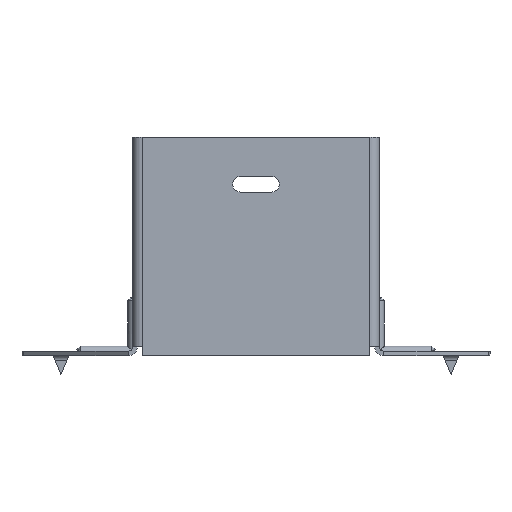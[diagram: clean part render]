
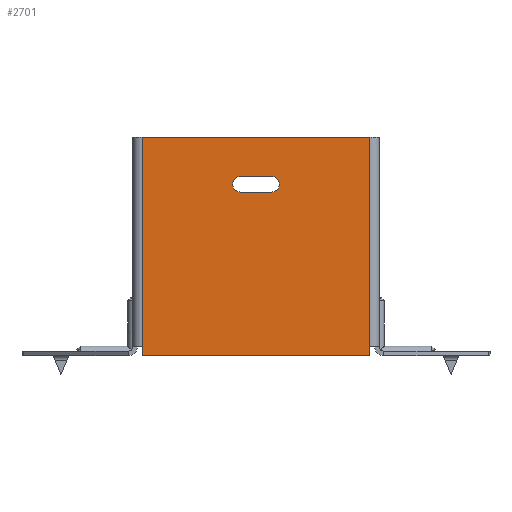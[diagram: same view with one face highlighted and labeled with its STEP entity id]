
A CAD part, front view. The second image highlights one B-rep face of the part: STEP entity #2701.
In plain terms, the highlighted planar face has unit normal (0, -1, 0).
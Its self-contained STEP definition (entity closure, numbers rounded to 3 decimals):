
#362 = ORIENTED_EDGE ( 'NONE', *, *, #1970, .F. ) ;
#793 = CARTESIAN_POINT ( 'NONE',  ( 5., 0., -12.5 ) ) ;
#796 = EDGE_CURVE ( 'NONE', #10581, #10663, #11955, .T. ) ;
#810 = DIRECTION ( 'NONE',  ( 1., 0., 0. ) ) ;
#946 = EDGE_CURVE ( 'NONE', #8837, #7080, #12738, .T. ) ;
#1053 = VERTEX_POINT ( 'NONE', #11641 ) ;
#1271 = VECTOR ( 'NONE', #8952, 1000. ) ;
#1512 = FACE_OUTER_BOUND ( 'NONE', #6872, .T. ) ;
#1698 = VECTOR ( 'NONE', #12155, 1000. ) ;
#1741 = DIRECTION ( 'NONE',  ( 0., 0., -1. ) ) ;
#1835 = CARTESIAN_POINT ( 'NONE',  ( -38., 0., -70. ) ) ;
#1970 = EDGE_CURVE ( 'NONE', #8837, #3628, #2506, .T. ) ;
#2119 = PLANE ( 'NONE',  #12156 ) ;
#2173 = LINE ( 'NONE', #11968, #10485 ) ;
#2338 = LINE ( 'NONE', #8951, #6159 ) ;
#2420 = CARTESIAN_POINT ( 'NONE',  ( -5., 0., -12.5 ) ) ;
#2506 = LINE ( 'NONE', #1835, #1698 ) ;
#2577 = VERTEX_POINT ( 'NONE', #6284 ) ;
#2701 = ADVANCED_FACE ( 'NONE', ( #4260, #1512 ), #2119, .F. ) ;
#2912 = CARTESIAN_POINT ( 'NONE',  ( 5., 0., -15. ) ) ;
#3280 = EDGE_LOOP ( 'NONE', ( #7302, #7649, #12315, #5391 ) ) ;
#3332 = CARTESIAN_POINT ( 'NONE',  ( 36.5, 0., -70. ) ) ;
#3627 = LINE ( 'NONE', #10206, #7447 ) ;
#3628 = VERTEX_POINT ( 'NONE', #11348 ) ;
#3905 = EDGE_CURVE ( 'NONE', #5338, #2577, #10902, .T. ) ;
#4260 = FACE_BOUND ( 'NONE', #3280, .T. ) ;
#4947 = CARTESIAN_POINT ( 'NONE',  ( -5., 0., -17.5 ) ) ;
#4988 = EDGE_CURVE ( 'NONE', #9089, #1053, #2338, .T. ) ;
#5253 = EDGE_CURVE ( 'NONE', #13102, #3628, #2173, .T. ) ;
#5338 = VERTEX_POINT ( 'NONE', #793 ) ;
#5391 = ORIENTED_EDGE ( 'NONE', *, *, #3905, .T. ) ;
#5444 = EDGE_CURVE ( 'NONE', #9089, #13102, #12540, .T. ) ;
#5542 = CARTESIAN_POINT ( 'NONE',  ( 36.5, 0., -70. ) ) ;
#5894 = LINE ( 'NONE', #4947, #1271 ) ;
#5971 = DIRECTION ( 'NONE',  ( 0., 1., 0. ) ) ;
#6090 = AXIS2_PLACEMENT_3D ( 'NONE', #2912, #10192, #13118 ) ;
#6150 = DIRECTION ( 'NONE',  ( 0., 0., 1. ) ) ;
#6159 = VECTOR ( 'NONE', #810, 1000. ) ;
#6181 = DIRECTION ( 'NONE',  ( 0., 0., 1. ) ) ;
#6284 = CARTESIAN_POINT ( 'NONE',  ( 5., 0., -17.5 ) ) ;
#6582 = CARTESIAN_POINT ( 'NONE',  ( 36.5, 0., -67. ) ) ;
#6816 = ORIENTED_EDGE ( 'NONE', *, *, #12837, .T. ) ;
#6872 = EDGE_LOOP ( 'NONE', ( #7827, #10861, #362, #9073, #6816, #8049 ) ) ;
#6941 = VECTOR ( 'NONE', #10426, 1000. ) ;
#6948 = CARTESIAN_POINT ( 'NONE',  ( -36.5, 0., 0. ) ) ;
#7080 = VERTEX_POINT ( 'NONE', #6582 ) ;
#7245 = CARTESIAN_POINT ( 'NONE',  ( 0., 0., 0. ) ) ;
#7302 = ORIENTED_EDGE ( 'NONE', *, *, #8343, .T. ) ;
#7447 = VECTOR ( 'NONE', #10349, 1000. ) ;
#7611 = VECTOR ( 'NONE', #11508, 1000. ) ;
#7649 = ORIENTED_EDGE ( 'NONE', *, *, #796, .T. ) ;
#7827 = ORIENTED_EDGE ( 'NONE', *, *, #5444, .T. ) ;
#7972 = CARTESIAN_POINT ( 'NONE',  ( -36.5, 0., -67. ) ) ;
#8049 = ORIENTED_EDGE ( 'NONE', *, *, #4988, .F. ) ;
#8303 = CARTESIAN_POINT ( 'NONE',  ( -5., 0., -17.5 ) ) ;
#8343 = EDGE_CURVE ( 'NONE', #2577, #10581, #5894, .T. ) ;
#8837 = VERTEX_POINT ( 'NONE', #5542 ) ;
#8951 = CARTESIAN_POINT ( 'NONE',  ( -38., 0., 0. ) ) ;
#8952 = DIRECTION ( 'NONE',  ( -1., 0., 0. ) ) ;
#9073 = ORIENTED_EDGE ( 'NONE', *, *, #946, .T. ) ;
#9089 = VERTEX_POINT ( 'NONE', #6948 ) ;
#9220 = DIRECTION ( 'NONE',  ( 0., 1., 0. ) ) ;
#10192 = DIRECTION ( 'NONE',  ( 0., 1., 0. ) ) ;
#10206 = CARTESIAN_POINT ( 'NONE',  ( -5., 0., -12.5 ) ) ;
#10349 = DIRECTION ( 'NONE',  ( 1., 0., 0. ) ) ;
#10426 = DIRECTION ( 'NONE',  ( 0., 0., -1. ) ) ;
#10485 = VECTOR ( 'NONE', #1741, 1000. ) ;
#10581 = VERTEX_POINT ( 'NONE', #8303 ) ;
#10583 = DIRECTION ( 'NONE',  ( 0., 0., 1. ) ) ;
#10632 = LINE ( 'NONE', #10800, #11099 ) ;
#10663 = VERTEX_POINT ( 'NONE', #2420 ) ;
#10750 = AXIS2_PLACEMENT_3D ( 'NONE', #13243, #5971, #6150 ) ;
#10800 = CARTESIAN_POINT ( 'NONE',  ( 36.5, 0., -70. ) ) ;
#10861 = ORIENTED_EDGE ( 'NONE', *, *, #5253, .T. ) ;
#10902 = CIRCLE ( 'NONE', #6090, 2.5 ) ;
#11099 = VECTOR ( 'NONE', #10583, 1000. ) ;
#11348 = CARTESIAN_POINT ( 'NONE',  ( -36.5, 0., -70. ) ) ;
#11508 = DIRECTION ( 'NONE',  ( 0., 0., 1. ) ) ;
#11641 = CARTESIAN_POINT ( 'NONE',  ( 36.5, 0., 0. ) ) ;
#11955 = CIRCLE ( 'NONE', #10750, 2.5 ) ;
#11968 = CARTESIAN_POINT ( 'NONE',  ( -36.5, 0., 0. ) ) ;
#12000 = EDGE_CURVE ( 'NONE', #10663, #5338, #3627, .T. ) ;
#12155 = DIRECTION ( 'NONE',  ( -1., 0., 0. ) ) ;
#12156 = AXIS2_PLACEMENT_3D ( 'NONE', #7245, #9220, #6181 ) ;
#12315 = ORIENTED_EDGE ( 'NONE', *, *, #12000, .T. ) ;
#12540 = LINE ( 'NONE', #12596, #6941 ) ;
#12596 = CARTESIAN_POINT ( 'NONE',  ( -36.5, 0., 0. ) ) ;
#12738 = LINE ( 'NONE', #3332, #7611 ) ;
#12837 = EDGE_CURVE ( 'NONE', #7080, #1053, #10632, .T. ) ;
#13102 = VERTEX_POINT ( 'NONE', #7972 ) ;
#13118 = DIRECTION ( 'NONE',  ( 0., 0., 1. ) ) ;
#13243 = CARTESIAN_POINT ( 'NONE',  ( -5., 0., -15. ) ) ;
